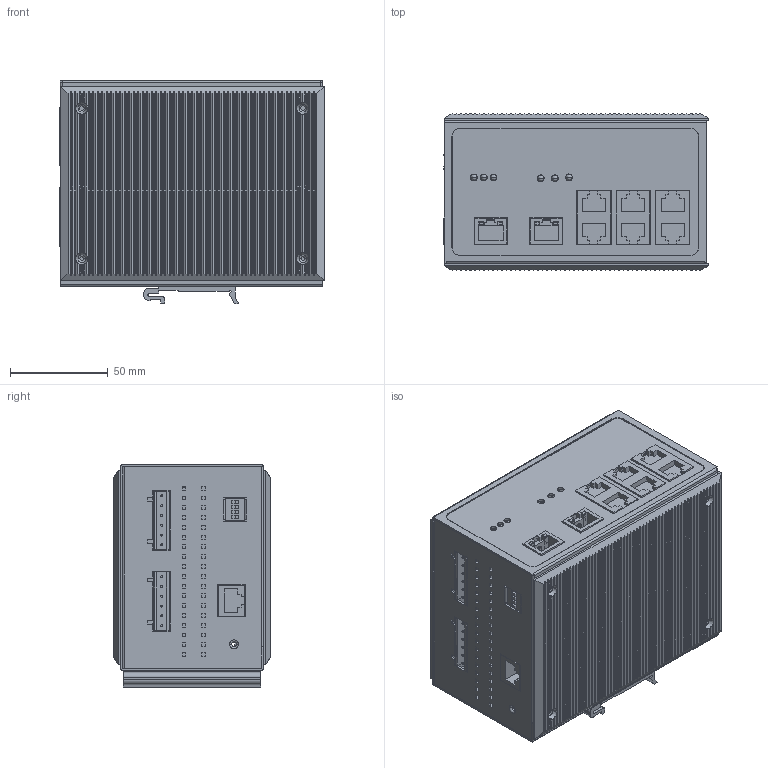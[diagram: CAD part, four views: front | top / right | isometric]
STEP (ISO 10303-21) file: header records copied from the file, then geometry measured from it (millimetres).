
FILE_DESCRIPTION((''),'2;1');
FILE_NAME('EDS-508A','2010-08-19T',('Chialu_Chang'),(''),'PRO/ENGINEER BY PARAMETRIC TECHNOLOGY CORPORATION, 2004440','PRO/ENGINEER BY PARAMETRIC TECHNOLOGY CORPORATION, 2004440','');
FILE_SCHEMA(('CONFIG_CONTROL_DESIGN'));
Products named in the file (1): EDS-508A
Bounding box: 135.3 x 80.18 x 114 mm (x, y, z)
Surface area: 278512 mm2 (no closed solid volume)
Topology: 0 solids, 45 shells, 2816 faces, 7427 edges, 4833 vertices
Faces by surface type: plane 1726, cylinder 916, cone 76, torus 70, bspline 28
Entity records: 88201 total; most frequent: CARTESIAN_POINT 17885, ORIENTED_EDGE 14806, DIRECTION 13997, EDGE_CURVE 7419, VECTOR 4987, LINE 4987, VERTEX_POINT 4833, AXIS2_PLACEMENT_3D 4505
